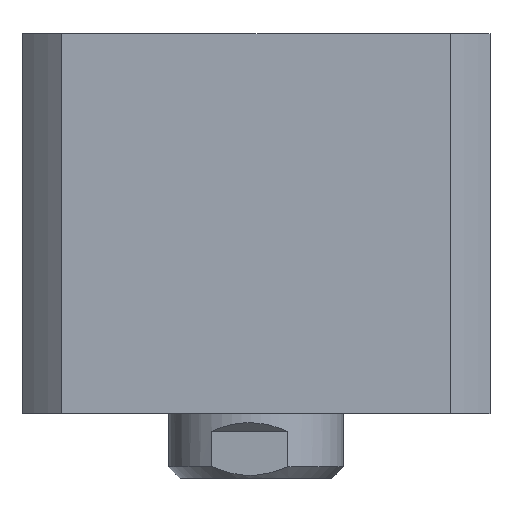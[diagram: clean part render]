
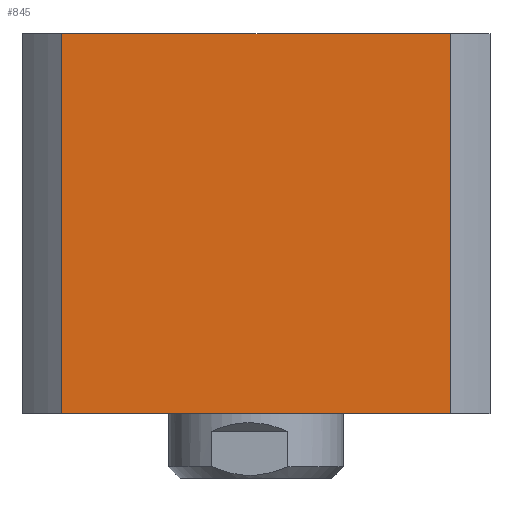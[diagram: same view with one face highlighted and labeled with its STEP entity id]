
A CAD part, left-side view. The second image highlights one B-rep face of the part: STEP entity #845.
In plain terms, the highlighted planar face has unit normal (-1, 0, 0).
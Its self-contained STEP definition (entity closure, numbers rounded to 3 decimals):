
#679 = VERTEX_POINT ( 'NONE', #11632 ) ;
#825 = ORIENTED_EDGE ( 'NONE', *, *, #10769, .T. ) ;
#845 = ADVANCED_FACE ( 'NONE', ( #7614 ), #5362, .F. ) ;
#860 = DIRECTION ( 'NONE',  ( 0., -1., 0. ) ) ;
#1480 = DIRECTION ( 'NONE',  ( 0., -1., 0. ) ) ;
#2118 = LINE ( 'NONE', #13436, #10103 ) ;
#2277 = VERTEX_POINT ( 'NONE', #4408 ) ;
#2327 = DIRECTION ( 'NONE',  ( 0., 0., -1. ) ) ;
#2548 = EDGE_LOOP ( 'NONE', ( #825, #13257, #12506, #8154 ) ) ;
#2842 = LINE ( 'NONE', #5067, #10160 ) ;
#3421 = LINE ( 'NONE', #5586, #11070 ) ;
#3566 = VERTEX_POINT ( 'NONE', #13069 ) ;
#3588 = EDGE_CURVE ( 'NONE', #5764, #679, #3421, .T. ) ;
#3784 = CARTESIAN_POINT ( 'NONE',  ( -40., 33.226, 32.5 ) ) ;
#4408 = CARTESIAN_POINT ( 'NONE',  ( -40., -33.226, 32.5 ) ) ;
#4642 = LINE ( 'NONE', #11511, #6156 ) ;
#5067 = CARTESIAN_POINT ( 'NONE',  ( -40., -33.226, 32.5 ) ) ;
#5362 = PLANE ( 'NONE',  #7702 ) ;
#5586 = CARTESIAN_POINT ( 'NONE',  ( -40., 33.226, 32.5 ) ) ;
#5764 = VERTEX_POINT ( 'NONE', #3784 ) ;
#6156 = VECTOR ( 'NONE', #860, 1000. ) ;
#6475 = DIRECTION ( 'NONE',  ( 1., 0., 0. ) ) ;
#7328 = EDGE_CURVE ( 'NONE', #2277, #3566, #2842, .T. ) ;
#7424 = DIRECTION ( 'NONE',  ( 0., 1., 0. ) ) ;
#7614 = FACE_OUTER_BOUND ( 'NONE', #2548, .T. ) ;
#7702 = AXIS2_PLACEMENT_3D ( 'NONE', #13887, #6475, #7424 ) ;
#8154 = ORIENTED_EDGE ( 'NONE', *, *, #3588, .T. ) ;
#9454 = DIRECTION ( 'NONE',  ( 0., 0., -1. ) ) ;
#10103 = VECTOR ( 'NONE', #1480, 1000. ) ;
#10160 = VECTOR ( 'NONE', #9454, 1000. ) ;
#10769 = EDGE_CURVE ( 'NONE', #679, #3566, #2118, .T. ) ;
#11070 = VECTOR ( 'NONE', #2327, 1000. ) ;
#11511 = CARTESIAN_POINT ( 'NONE',  ( -40., 33.226, 32.5 ) ) ;
#11632 = CARTESIAN_POINT ( 'NONE',  ( -40., 33.226, -32.5 ) ) ;
#11822 = EDGE_CURVE ( 'NONE', #5764, #2277, #4642, .T. ) ;
#12506 = ORIENTED_EDGE ( 'NONE', *, *, #11822, .F. ) ;
#13069 = CARTESIAN_POINT ( 'NONE',  ( -40., -33.226, -32.5 ) ) ;
#13257 = ORIENTED_EDGE ( 'NONE', *, *, #7328, .F. ) ;
#13436 = CARTESIAN_POINT ( 'NONE',  ( -40., 33.226, -32.5 ) ) ;
#13887 = CARTESIAN_POINT ( 'NONE',  ( -40., 33.226, 32.5 ) ) ;
